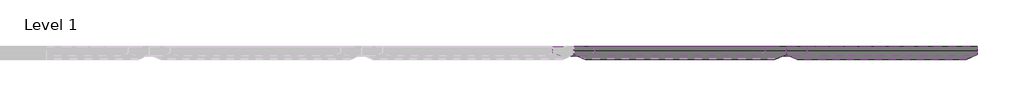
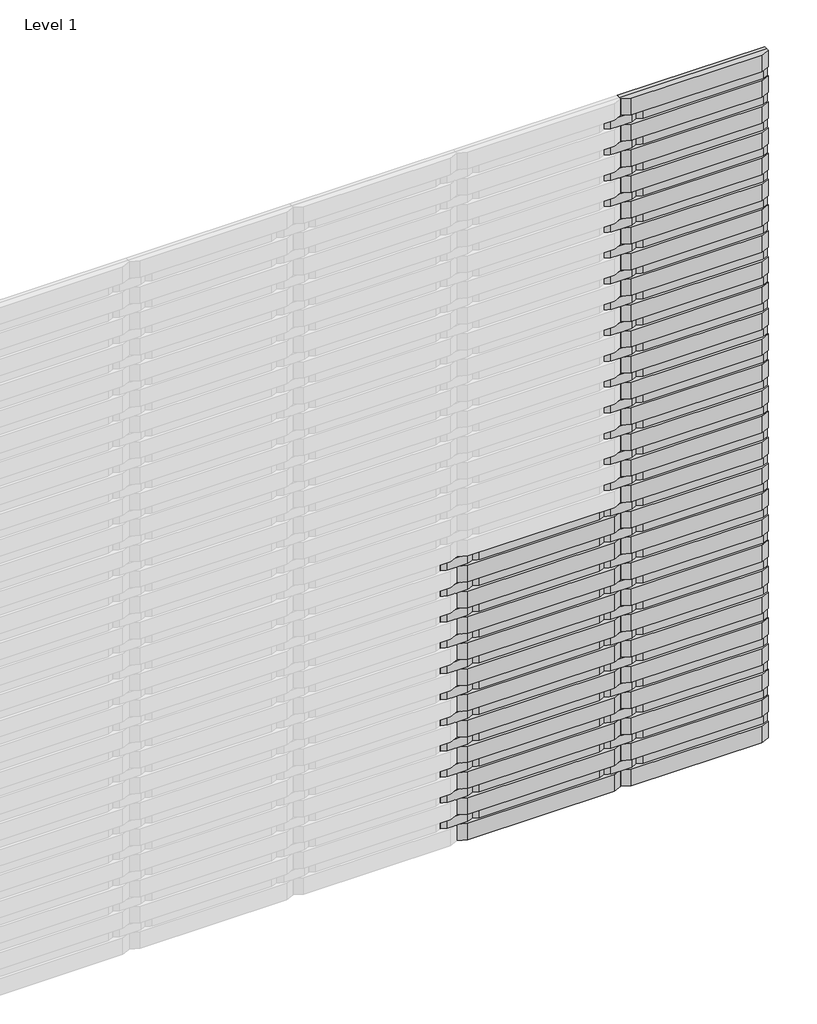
# One storey, part 4 of 4: 112 proxies.
"""IFC4 building model written with IfcOpenShell, lengths in millimetres."""

from ifc_helpers import new_model, si_unit, origin, place, context, project, spatial, transform, mapped, element, save
from components import specialty_equipment_40f1bc00, specialty_equipment_c238b70d, specialty_equipment_b25e9ab8, specialty_equipment_e09701c8

model = new_model("IFC4")

# Units and contexts
model_context = context("Model", 3, world=origin())
ifc_project = project(units=[si_unit("LENGTHUNIT", "METRE", prefix="MILLI")], contexts=[model_context])

# Site, building, storey
site = spatial("IfcSite", under=ifc_project)
building = spatial("IfcBuilding", under=site)
storey = spatial("IfcBuildingStorey", under=building, Name="Level 1", Elevation=0.0)

# Proxies
placement = place(None, origin())
specialty_equipment_shape = specialty_equipment_40f1bc00(model_context)
element("IfcBuildingElementProxy", 1, Name="Spinneybeck_ARO Plank 8 : A - 2’-9” x 3 1/2” x 1 1/4”", ObjectType="Spinneybeck_ARO Plank 8 : A - 2’-9” x 3 1/2” x 1 1/4”", at=placement, inside=storey, context=model_context, shape_type="MappedRepresentation", body=[
    mapped(specialty_equipment_shape, transform((3652.779612, 2593.3070483, 1520.35), x_axis=(1.0, 0.0, 0.0), y_axis=(0.0, 0.0, 1.0), z_axis=(0.0, -1.0, 0.0))),
])
element("IfcBuildingElementProxy", 2, Name="Spinneybeck_ARO Plank 8 : A - 2’-9” x 3 1/2” x 1 1/4”", ObjectType="Spinneybeck_ARO Plank 8 : A - 2’-9” x 3 1/2” x 1 1/4”", at=placement, inside=storey, context=model_context, shape_type="MappedRepresentation", body=[
    mapped(specialty_equipment_shape, transform((3652.779612, 2593.3070483, 1380.65), x_axis=(1.0, 0.0, 0.0), y_axis=(0.0, 0.0, 1.0), z_axis=(0.0, -1.0, 0.0))),
])
element("IfcBuildingElementProxy", 3, Name="Spinneybeck_ARO Plank 8 : A - 2’-9” x 3 1/2” x 1 1/4”", ObjectType="Spinneybeck_ARO Plank 8 : A - 2’-9” x 3 1/2” x 1 1/4”", at=placement, inside=storey, context=model_context, shape_type="MappedRepresentation", body=[
    mapped(specialty_equipment_shape, transform((3652.779612, 2593.3070483, 1240.95), x_axis=(1.0, 0.0, 0.0), y_axis=(0.0, 0.0, 1.0), z_axis=(0.0, -1.0, 0.0))),
])
element("IfcBuildingElementProxy", 4, Name="Spinneybeck_ARO Plank 8 : A - 2’-9” x 3 1/2” x 1 1/4”", ObjectType="Spinneybeck_ARO Plank 8 : A - 2’-9” x 3 1/2” x 1 1/4”", at=placement, inside=storey, context=model_context, shape_type="MappedRepresentation", body=[
    mapped(specialty_equipment_shape, transform((3652.779612, 2593.3070483, 1101.25), x_axis=(1.0, 0.0, 0.0), y_axis=(0.0, 0.0, 1.0), z_axis=(0.0, -1.0, 0.0))),
])
element("IfcBuildingElementProxy", 5, Name="Spinneybeck_ARO Plank 8 : A - 2’-9” x 3 1/2” x 1 1/4”", ObjectType="Spinneybeck_ARO Plank 8 : A - 2’-9” x 3 1/2” x 1 1/4”", at=placement, inside=storey, context=model_context, shape_type="MappedRepresentation", body=[
    mapped(specialty_equipment_shape, transform((3652.779612, 2593.3070483, 961.55), x_axis=(1.0, 0.0, 0.0), y_axis=(0.0, 0.0, 1.0), z_axis=(0.0, -1.0, 0.0))),
])
element("IfcBuildingElementProxy", 6, Name="Spinneybeck_ARO Plank 8 : A - 2’-9” x 3 1/2” x 1 1/4”", ObjectType="Spinneybeck_ARO Plank 8 : A - 2’-9” x 3 1/2” x 1 1/4”", at=placement, inside=storey, context=model_context, shape_type="MappedRepresentation", body=[
    mapped(specialty_equipment_shape, transform((3652.779612, 2593.3070483, 821.85), x_axis=(1.0, 0.0, 0.0), y_axis=(0.0, 0.0, 1.0), z_axis=(0.0, -1.0, 0.0))),
])
element("IfcBuildingElementProxy", 7, Name="Spinneybeck_ARO Plank 8 : A - 2’-9” x 3 1/2” x 1 1/4”", ObjectType="Spinneybeck_ARO Plank 8 : A - 2’-9” x 3 1/2” x 1 1/4”", at=placement, inside=storey, context=model_context, shape_type="MappedRepresentation", body=[
    mapped(specialty_equipment_shape, transform((3652.779612, 2593.3070483, 682.15), x_axis=(1.0, 0.0, 0.0), y_axis=(0.0, 0.0, 1.0), z_axis=(0.0, -1.0, 0.0))),
])
element("IfcBuildingElementProxy", 8, Name="Spinneybeck_ARO Plank 8 : A - 2’-9” x 3 1/2” x 1 1/4”", ObjectType="Spinneybeck_ARO Plank 8 : A - 2’-9” x 3 1/2” x 1 1/4”", at=placement, inside=storey, context=model_context, shape_type="MappedRepresentation", body=[
    mapped(specialty_equipment_shape, transform((3652.779612, 2593.3070483, 542.45), x_axis=(1.0, 0.0, 0.0), y_axis=(0.0, 0.0, 1.0), z_axis=(0.0, -1.0, 0.0))),
])
element("IfcBuildingElementProxy", 9, Name="Spinneybeck_ARO Plank 8 : A - 2’-9” x 3 1/2” x 1 1/4”", ObjectType="Spinneybeck_ARO Plank 8 : A - 2’-9” x 3 1/2” x 1 1/4”", at=placement, inside=storey, context=model_context, shape_type="MappedRepresentation", body=[
    mapped(specialty_equipment_shape, transform((3652.779612, 2593.3070483, 402.75), x_axis=(1.0, 0.0, 0.0), y_axis=(0.0, 0.0, 1.0), z_axis=(0.0, -1.0, 0.0))),
])
element("IfcBuildingElementProxy", 10, Name="Spinneybeck_ARO Plank 8 : A - 2’-9” x 3 1/2” x 1 1/4”", ObjectType="Spinneybeck_ARO Plank 8 : A - 2’-9” x 3 1/2” x 1 1/4”", at=placement, inside=storey, context=model_context, shape_type="MappedRepresentation", body=[
    mapped(specialty_equipment_shape, transform((3652.779612, 2593.3070483, 263.05), x_axis=(1.0, 0.0, 0.0), y_axis=(0.0, 0.0, 1.0), z_axis=(0.0, -1.0, 0.0))),
])
element("IfcBuildingElementProxy", 11, Name="Spinneybeck_ARO Plank 8 : A - 2’-9” x 3 1/2” x 1 1/4”", ObjectType="Spinneybeck_ARO Plank 8 : A - 2’-9” x 3 1/2” x 1 1/4”", at=placement, inside=storey, context=model_context, shape_type="MappedRepresentation", body=[
    mapped(specialty_equipment_shape, transform((3652.779612, 2593.3070483, 123.35), x_axis=(1.0, 0.0, 0.0), y_axis=(0.0, 0.0, 1.0), z_axis=(0.0, -1.0, 0.0))),
])
specialty_equipment_2_shape = specialty_equipment_c238b70d(model_context)
element("IfcBuildingElementProxy", 12, Name="Spinneybeck_ARO Plank 8 : E - 6 1/2” x 2” x 3/4”", ObjectType="Spinneybeck_ARO Plank 8 : E - 6 1/2” x 2” x 3/4”", at=placement, inside=storey, context=model_context, shape_type="MappedRepresentation", body=[
    mapped(specialty_equipment_2_shape, transform((4071.879612, 2593.3070483, 3685.7), x_axis=(1.0, 0.0, 0.0), y_axis=(0.0, 0.0, 1.0), z_axis=(0.0, -1.0, 0.0))),
])
element("IfcBuildingElementProxy", 13, Name="Spinneybeck_ARO Plank 8 : E - 6 1/2” x 2” x 3/4”", ObjectType="Spinneybeck_ARO Plank 8 : E - 6 1/2” x 2” x 3/4”", at=placement, inside=storey, context=model_context, shape_type="MappedRepresentation", body=[
    mapped(specialty_equipment_2_shape, transform((4071.879612, 2593.3070483, 3546.0), x_axis=(1.0, 0.0, 0.0), y_axis=(0.0, 0.0, 1.0), z_axis=(0.0, -1.0, 0.0))),
])
element("IfcBuildingElementProxy", 14, Name="Spinneybeck_ARO Plank 8 : E - 6 1/2” x 2” x 3/4”", ObjectType="Spinneybeck_ARO Plank 8 : E - 6 1/2” x 2” x 3/4”", at=placement, inside=storey, context=model_context, shape_type="MappedRepresentation", body=[
    mapped(specialty_equipment_2_shape, transform((4071.879612, 2593.3070483, 3406.3), x_axis=(1.0, 0.0, 0.0), y_axis=(0.0, 0.0, 1.0), z_axis=(0.0, -1.0, 0.0))),
])
element("IfcBuildingElementProxy", 15, Name="Spinneybeck_ARO Plank 8 : E - 6 1/2” x 2” x 3/4”", ObjectType="Spinneybeck_ARO Plank 8 : E - 6 1/2” x 2” x 3/4”", at=placement, inside=storey, context=model_context, shape_type="MappedRepresentation", body=[
    mapped(specialty_equipment_2_shape, transform((4071.879612, 2593.3070483, 3266.6), x_axis=(1.0, 0.0, 0.0), y_axis=(0.0, 0.0, 1.0), z_axis=(0.0, -1.0, 0.0))),
])
element("IfcBuildingElementProxy", 16, Name="Spinneybeck_ARO Plank 8 : E - 6 1/2” x 2” x 3/4”", ObjectType="Spinneybeck_ARO Plank 8 : E - 6 1/2” x 2” x 3/4”", at=placement, inside=storey, context=model_context, shape_type="MappedRepresentation", body=[
    mapped(specialty_equipment_2_shape, transform((4071.879612, 2593.3070483, 3126.9), x_axis=(1.0, 0.0, 0.0), y_axis=(0.0, 0.0, 1.0), z_axis=(0.0, -1.0, 0.0))),
])
element("IfcBuildingElementProxy", 17, Name="Spinneybeck_ARO Plank 8 : E - 6 1/2” x 2” x 3/4”", ObjectType="Spinneybeck_ARO Plank 8 : E - 6 1/2” x 2” x 3/4”", at=placement, inside=storey, context=model_context, shape_type="MappedRepresentation", body=[
    mapped(specialty_equipment_2_shape, transform((4071.879612, 2593.3070483, 2987.2), x_axis=(1.0, 0.0, 0.0), y_axis=(0.0, 0.0, 1.0), z_axis=(0.0, -1.0, 0.0))),
])
element("IfcBuildingElementProxy", 18, Name="Spinneybeck_ARO Plank 8 : E - 6 1/2” x 2” x 3/4”", ObjectType="Spinneybeck_ARO Plank 8 : E - 6 1/2” x 2” x 3/4”", at=placement, inside=storey, context=model_context, shape_type="MappedRepresentation", body=[
    mapped(specialty_equipment_2_shape, transform((4071.879612, 2593.3070483, 2847.5), x_axis=(1.0, 0.0, 0.0), y_axis=(0.0, 0.0, 1.0), z_axis=(0.0, -1.0, 0.0))),
])
element("IfcBuildingElementProxy", 19, Name="Spinneybeck_ARO Plank 8 : E - 6 1/2” x 2” x 3/4”", ObjectType="Spinneybeck_ARO Plank 8 : E - 6 1/2” x 2” x 3/4”", at=placement, inside=storey, context=model_context, shape_type="MappedRepresentation", body=[
    mapped(specialty_equipment_2_shape, transform((4071.879612, 2593.3070483, 2707.8), x_axis=(1.0, 0.0, 0.0), y_axis=(0.0, 0.0, 1.0), z_axis=(0.0, -1.0, 0.0))),
])
element("IfcBuildingElementProxy", 20, Name="Spinneybeck_ARO Plank 8 : E - 6 1/2” x 2” x 3/4”", ObjectType="Spinneybeck_ARO Plank 8 : E - 6 1/2” x 2” x 3/4”", at=placement, inside=storey, context=model_context, shape_type="MappedRepresentation", body=[
    mapped(specialty_equipment_2_shape, transform((4071.879612, 2593.3070483, 2568.1), x_axis=(1.0, 0.0, 0.0), y_axis=(0.0, 0.0, 1.0), z_axis=(0.0, -1.0, 0.0))),
])
element("IfcBuildingElementProxy", 21, Name="Spinneybeck_ARO Plank 8 : E - 6 1/2” x 2” x 3/4”", ObjectType="Spinneybeck_ARO Plank 8 : E - 6 1/2” x 2” x 3/4”", at=placement, inside=storey, context=model_context, shape_type="MappedRepresentation", body=[
    mapped(specialty_equipment_2_shape, transform((4071.879612, 2593.3070483, 2428.4), x_axis=(1.0, 0.0, 0.0), y_axis=(0.0, 0.0, 1.0), z_axis=(0.0, -1.0, 0.0))),
])
element("IfcBuildingElementProxy", 22, Name="Spinneybeck_ARO Plank 8 : E - 6 1/2” x 2” x 3/4”", ObjectType="Spinneybeck_ARO Plank 8 : E - 6 1/2” x 2” x 3/4”", at=placement, inside=storey, context=model_context, shape_type="MappedRepresentation", body=[
    mapped(specialty_equipment_2_shape, transform((4071.879612, 2593.3070483, 2288.7), x_axis=(1.0, 0.0, 0.0), y_axis=(0.0, 0.0, 1.0), z_axis=(0.0, -1.0, 0.0))),
])
element("IfcBuildingElementProxy", 23, Name="Spinneybeck_ARO Plank 8 : E - 6 1/2” x 2” x 3/4”", ObjectType="Spinneybeck_ARO Plank 8 : E - 6 1/2” x 2” x 3/4”", at=placement, inside=storey, context=model_context, shape_type="MappedRepresentation", body=[
    mapped(specialty_equipment_2_shape, transform((4071.879612, 2593.3070483, 2149.0), x_axis=(1.0, 0.0, 0.0), y_axis=(0.0, 0.0, 1.0), z_axis=(0.0, -1.0, 0.0))),
])
element("IfcBuildingElementProxy", 24, Name="Spinneybeck_ARO Plank 8 : E - 6 1/2” x 2” x 3/4”", ObjectType="Spinneybeck_ARO Plank 8 : E - 6 1/2” x 2” x 3/4”", at=placement, inside=storey, context=model_context, shape_type="MappedRepresentation", body=[
    mapped(specialty_equipment_2_shape, transform((4071.879612, 2593.3070483, 2009.3), x_axis=(1.0, 0.0, 0.0), y_axis=(0.0, 0.0, 1.0), z_axis=(0.0, -1.0, 0.0))),
])
element("IfcBuildingElementProxy", 25, Name="Spinneybeck_ARO Plank 8 : E - 6 1/2” x 2” x 3/4”", ObjectType="Spinneybeck_ARO Plank 8 : E - 6 1/2” x 2” x 3/4”", at=placement, inside=storey, context=model_context, shape_type="MappedRepresentation", body=[
    mapped(specialty_equipment_2_shape, transform((4071.879612, 2593.3070483, 1869.6), x_axis=(1.0, 0.0, 0.0), y_axis=(0.0, 0.0, 1.0), z_axis=(0.0, -1.0, 0.0))),
])
element("IfcBuildingElementProxy", 26, Name="Spinneybeck_ARO Plank 8 : E - 6 1/2” x 2” x 3/4”", ObjectType="Spinneybeck_ARO Plank 8 : E - 6 1/2” x 2” x 3/4”", at=placement, inside=storey, context=model_context, shape_type="MappedRepresentation", body=[
    mapped(specialty_equipment_2_shape, transform((4071.879612, 2593.3070483, 1729.9), x_axis=(1.0, 0.0, 0.0), y_axis=(0.0, 0.0, 1.0), z_axis=(0.0, -1.0, 0.0))),
])
element("IfcBuildingElementProxy", 27, Name="Spinneybeck_ARO Plank 8 : E - 6 1/2” x 2” x 3/4”", ObjectType="Spinneybeck_ARO Plank 8 : E - 6 1/2” x 2” x 3/4”", at=placement, inside=storey, context=model_context, shape_type="MappedRepresentation", body=[
    mapped(specialty_equipment_2_shape, transform((3233.679612, 2593.3070483, 1590.2), x_axis=(1.0, 0.0, 0.0), y_axis=(0.0, 0.0, 1.0), z_axis=(0.0, -1.0, 0.0))),
])
element("IfcBuildingElementProxy", 28, Name="Spinneybeck_ARO Plank 8 : E - 6 1/2” x 2” x 3/4”", ObjectType="Spinneybeck_ARO Plank 8 : E - 6 1/2” x 2” x 3/4”", at=placement, inside=storey, context=model_context, shape_type="MappedRepresentation", body=[
    mapped(specialty_equipment_2_shape, transform((4071.879612, 2593.3070483, 1590.2), x_axis=(1.0, 0.0, 0.0), y_axis=(0.0, 0.0, 1.0), z_axis=(0.0, -1.0, 0.0))),
])
element("IfcBuildingElementProxy", 29, Name="Spinneybeck_ARO Plank 8 : E - 6 1/2” x 2” x 3/4”", ObjectType="Spinneybeck_ARO Plank 8 : E - 6 1/2” x 2” x 3/4”", at=placement, inside=storey, context=model_context, shape_type="MappedRepresentation", body=[
    mapped(specialty_equipment_2_shape, transform((3233.679612, 2593.3070483, 1450.5), x_axis=(1.0, 0.0, 0.0), y_axis=(0.0, 0.0, 1.0), z_axis=(0.0, -1.0, 0.0))),
])
element("IfcBuildingElementProxy", 30, Name="Spinneybeck_ARO Plank 8 : E - 6 1/2” x 2” x 3/4”", ObjectType="Spinneybeck_ARO Plank 8 : E - 6 1/2” x 2” x 3/4”", at=placement, inside=storey, context=model_context, shape_type="MappedRepresentation", body=[
    mapped(specialty_equipment_2_shape, transform((4071.879612, 2593.3070483, 1450.5), x_axis=(1.0, 0.0, 0.0), y_axis=(0.0, 0.0, 1.0), z_axis=(0.0, -1.0, 0.0))),
])
element("IfcBuildingElementProxy", 31, Name="Spinneybeck_ARO Plank 8 : E - 6 1/2” x 2” x 3/4”", ObjectType="Spinneybeck_ARO Plank 8 : E - 6 1/2” x 2” x 3/4”", at=placement, inside=storey, context=model_context, shape_type="MappedRepresentation", body=[
    mapped(specialty_equipment_2_shape, transform((3233.679612, 2593.3070483, 1310.8), x_axis=(1.0, 0.0, 0.0), y_axis=(0.0, 0.0, 1.0), z_axis=(0.0, -1.0, 0.0))),
])
element("IfcBuildingElementProxy", 32, Name="Spinneybeck_ARO Plank 8 : E - 6 1/2” x 2” x 3/4”", ObjectType="Spinneybeck_ARO Plank 8 : E - 6 1/2” x 2” x 3/4”", at=placement, inside=storey, context=model_context, shape_type="MappedRepresentation", body=[
    mapped(specialty_equipment_2_shape, transform((4071.879612, 2593.3070483, 1310.8), x_axis=(1.0, 0.0, 0.0), y_axis=(0.0, 0.0, 1.0), z_axis=(0.0, -1.0, 0.0))),
])
element("IfcBuildingElementProxy", 33, Name="Spinneybeck_ARO Plank 8 : E - 6 1/2” x 2” x 3/4”", ObjectType="Spinneybeck_ARO Plank 8 : E - 6 1/2” x 2” x 3/4”", at=placement, inside=storey, context=model_context, shape_type="MappedRepresentation", body=[
    mapped(specialty_equipment_2_shape, transform((3233.679612, 2593.3070483, 1171.1), x_axis=(1.0, 0.0, 0.0), y_axis=(0.0, 0.0, 1.0), z_axis=(0.0, -1.0, 0.0))),
])
element("IfcBuildingElementProxy", 34, Name="Spinneybeck_ARO Plank 8 : E - 6 1/2” x 2” x 3/4”", ObjectType="Spinneybeck_ARO Plank 8 : E - 6 1/2” x 2” x 3/4”", at=placement, inside=storey, context=model_context, shape_type="MappedRepresentation", body=[
    mapped(specialty_equipment_2_shape, transform((4071.879612, 2593.3070483, 1171.1), x_axis=(1.0, 0.0, 0.0), y_axis=(0.0, 0.0, 1.0), z_axis=(0.0, -1.0, 0.0))),
])
element("IfcBuildingElementProxy", 35, Name="Spinneybeck_ARO Plank 8 : E - 6 1/2” x 2” x 3/4”", ObjectType="Spinneybeck_ARO Plank 8 : E - 6 1/2” x 2” x 3/4”", at=placement, inside=storey, context=model_context, shape_type="MappedRepresentation", body=[
    mapped(specialty_equipment_2_shape, transform((3233.679612, 2593.3070483, 1031.4), x_axis=(1.0, 0.0, 0.0), y_axis=(0.0, 0.0, 1.0), z_axis=(0.0, -1.0, 0.0))),
])
element("IfcBuildingElementProxy", 36, Name="Spinneybeck_ARO Plank 8 : E - 6 1/2” x 2” x 3/4”", ObjectType="Spinneybeck_ARO Plank 8 : E - 6 1/2” x 2” x 3/4”", at=placement, inside=storey, context=model_context, shape_type="MappedRepresentation", body=[
    mapped(specialty_equipment_2_shape, transform((4071.879612, 2593.3070483, 1031.4), x_axis=(1.0, 0.0, 0.0), y_axis=(0.0, 0.0, 1.0), z_axis=(0.0, -1.0, 0.0))),
])
element("IfcBuildingElementProxy", 37, Name="Spinneybeck_ARO Plank 8 : E - 6 1/2” x 2” x 3/4”", ObjectType="Spinneybeck_ARO Plank 8 : E - 6 1/2” x 2” x 3/4”", at=placement, inside=storey, context=model_context, shape_type="MappedRepresentation", body=[
    mapped(specialty_equipment_2_shape, transform((3233.679612, 2593.3070483, 891.7), x_axis=(1.0, 0.0, 0.0), y_axis=(0.0, 0.0, 1.0), z_axis=(0.0, -1.0, 0.0))),
])
element("IfcBuildingElementProxy", 38, Name="Spinneybeck_ARO Plank 8 : E - 6 1/2” x 2” x 3/4”", ObjectType="Spinneybeck_ARO Plank 8 : E - 6 1/2” x 2” x 3/4”", at=placement, inside=storey, context=model_context, shape_type="MappedRepresentation", body=[
    mapped(specialty_equipment_2_shape, transform((4071.879612, 2593.3070483, 891.7), x_axis=(1.0, 0.0, 0.0), y_axis=(0.0, 0.0, 1.0), z_axis=(0.0, -1.0, 0.0))),
])
element("IfcBuildingElementProxy", 39, Name="Spinneybeck_ARO Plank 8 : E - 6 1/2” x 2” x 3/4”", ObjectType="Spinneybeck_ARO Plank 8 : E - 6 1/2” x 2” x 3/4”", at=placement, inside=storey, context=model_context, shape_type="MappedRepresentation", body=[
    mapped(specialty_equipment_2_shape, transform((3233.679612, 2593.3070483, 752.0), x_axis=(1.0, 0.0, 0.0), y_axis=(0.0, 0.0, 1.0), z_axis=(0.0, -1.0, 0.0))),
])
element("IfcBuildingElementProxy", 40, Name="Spinneybeck_ARO Plank 8 : E - 6 1/2” x 2” x 3/4”", ObjectType="Spinneybeck_ARO Plank 8 : E - 6 1/2” x 2” x 3/4”", at=placement, inside=storey, context=model_context, shape_type="MappedRepresentation", body=[
    mapped(specialty_equipment_2_shape, transform((4071.879612, 2593.3070483, 752.0), x_axis=(1.0, 0.0, 0.0), y_axis=(0.0, 0.0, 1.0), z_axis=(0.0, -1.0, 0.0))),
])
element("IfcBuildingElementProxy", 41, Name="Spinneybeck_ARO Plank 8 : E - 6 1/2” x 2” x 3/4”", ObjectType="Spinneybeck_ARO Plank 8 : E - 6 1/2” x 2” x 3/4”", at=placement, inside=storey, context=model_context, shape_type="MappedRepresentation", body=[
    mapped(specialty_equipment_2_shape, transform((3233.679612, 2593.3070483, 612.3), x_axis=(1.0, 0.0, 0.0), y_axis=(0.0, 0.0, 1.0), z_axis=(0.0, -1.0, 0.0))),
])
element("IfcBuildingElementProxy", 42, Name="Spinneybeck_ARO Plank 8 : E - 6 1/2” x 2” x 3/4”", ObjectType="Spinneybeck_ARO Plank 8 : E - 6 1/2” x 2” x 3/4”", at=placement, inside=storey, context=model_context, shape_type="MappedRepresentation", body=[
    mapped(specialty_equipment_2_shape, transform((4071.879612, 2593.3070483, 612.3), x_axis=(1.0, 0.0, 0.0), y_axis=(0.0, 0.0, 1.0), z_axis=(0.0, -1.0, 0.0))),
])
element("IfcBuildingElementProxy", 43, Name="Spinneybeck_ARO Plank 8 : E - 6 1/2” x 2” x 3/4”", ObjectType="Spinneybeck_ARO Plank 8 : E - 6 1/2” x 2” x 3/4”", at=placement, inside=storey, context=model_context, shape_type="MappedRepresentation", body=[
    mapped(specialty_equipment_2_shape, transform((3233.679612, 2593.3070483, 472.6), x_axis=(1.0, 0.0, 0.0), y_axis=(0.0, 0.0, 1.0), z_axis=(0.0, -1.0, 0.0))),
])
element("IfcBuildingElementProxy", 44, Name="Spinneybeck_ARO Plank 8 : E - 6 1/2” x 2” x 3/4”", ObjectType="Spinneybeck_ARO Plank 8 : E - 6 1/2” x 2” x 3/4”", at=placement, inside=storey, context=model_context, shape_type="MappedRepresentation", body=[
    mapped(specialty_equipment_2_shape, transform((4071.879612, 2593.3070483, 472.6), x_axis=(1.0, 0.0, 0.0), y_axis=(0.0, 0.0, 1.0), z_axis=(0.0, -1.0, 0.0))),
])
element("IfcBuildingElementProxy", 45, Name="Spinneybeck_ARO Plank 8 : E - 6 1/2” x 2” x 3/4”", ObjectType="Spinneybeck_ARO Plank 8 : E - 6 1/2” x 2” x 3/4”", at=placement, inside=storey, context=model_context, shape_type="MappedRepresentation", body=[
    mapped(specialty_equipment_2_shape, transform((3233.679612, 2593.3070483, 332.9), x_axis=(1.0, 0.0, 0.0), y_axis=(0.0, 0.0, 1.0), z_axis=(0.0, -1.0, 0.0))),
])
element("IfcBuildingElementProxy", 46, Name="Spinneybeck_ARO Plank 8 : E - 6 1/2” x 2” x 3/4”", ObjectType="Spinneybeck_ARO Plank 8 : E - 6 1/2” x 2” x 3/4”", at=placement, inside=storey, context=model_context, shape_type="MappedRepresentation", body=[
    mapped(specialty_equipment_2_shape, transform((4071.879612, 2593.3070483, 332.9), x_axis=(1.0, 0.0, 0.0), y_axis=(0.0, 0.0, 1.0), z_axis=(0.0, -1.0, 0.0))),
])
element("IfcBuildingElementProxy", 47, Name="Spinneybeck_ARO Plank 8 : E - 6 1/2” x 2” x 3/4”", ObjectType="Spinneybeck_ARO Plank 8 : E - 6 1/2” x 2” x 3/4”", at=placement, inside=storey, context=model_context, shape_type="MappedRepresentation", body=[
    mapped(specialty_equipment_2_shape, transform((3233.679612, 2593.3070483, 193.2), x_axis=(1.0, 0.0, 0.0), y_axis=(0.0, 0.0, 1.0), z_axis=(0.0, -1.0, 0.0))),
])
element("IfcBuildingElementProxy", 48, Name="Spinneybeck_ARO Plank 8 : E - 6 1/2” x 2” x 3/4”", ObjectType="Spinneybeck_ARO Plank 8 : E - 6 1/2” x 2” x 3/4”", at=placement, inside=storey, context=model_context, shape_type="MappedRepresentation", body=[
    mapped(specialty_equipment_2_shape, transform((4071.879612, 2593.3070483, 193.2), x_axis=(1.0, 0.0, 0.0), y_axis=(0.0, 0.0, 1.0), z_axis=(0.0, -1.0, 0.0))),
])
specialty_equipment_3_shape = specialty_equipment_b25e9ab8(model_context)
element("IfcBuildingElementProxy", 49, Name="Spinneybeck_ARO Plank 8 : A - 2’-9” x 3 1/2” x 1 1/4”", ObjectType="Spinneybeck_ARO Plank 8 : A - 2’-9” x 3 1/2” x 1 1/4”", at=placement, inside=storey, context=model_context, shape_type="MappedRepresentation", body=[
    mapped(specialty_equipment_3_shape, transform((4449.704612, 2593.3070483, 3755.55), x_axis=(1.0, 0.0, 0.0), y_axis=(0.0, 0.0, 1.0), z_axis=(0.0, -1.0, 0.0))),
])
element("IfcBuildingElementProxy", 50, Name="Spinneybeck_ARO Plank 8 : A - 2’-9” x 3 1/2” x 1 1/4”", ObjectType="Spinneybeck_ARO Plank 8 : A - 2’-9” x 3 1/2” x 1 1/4”", at=placement, inside=storey, context=model_context, shape_type="MappedRepresentation", body=[
    mapped(specialty_equipment_3_shape, transform((4449.704612, 2593.3070483, 3615.85), x_axis=(1.0, 0.0, 0.0), y_axis=(0.0, 0.0, 1.0), z_axis=(0.0, -1.0, 0.0))),
])
element("IfcBuildingElementProxy", 51, Name="Spinneybeck_ARO Plank 8 : A - 2’-9” x 3 1/2” x 1 1/4”", ObjectType="Spinneybeck_ARO Plank 8 : A - 2’-9” x 3 1/2” x 1 1/4”", at=placement, inside=storey, context=model_context, shape_type="MappedRepresentation", body=[
    mapped(specialty_equipment_3_shape, transform((4449.704612, 2593.3070483, 3476.15), x_axis=(1.0, 0.0, 0.0), y_axis=(0.0, 0.0, 1.0), z_axis=(0.0, -1.0, 0.0))),
])
element("IfcBuildingElementProxy", 52, Name="Spinneybeck_ARO Plank 8 : A - 2’-9” x 3 1/2” x 1 1/4”", ObjectType="Spinneybeck_ARO Plank 8 : A - 2’-9” x 3 1/2” x 1 1/4”", at=placement, inside=storey, context=model_context, shape_type="MappedRepresentation", body=[
    mapped(specialty_equipment_3_shape, transform((4449.704612, 2593.3070483, 3336.45), x_axis=(1.0, 0.0, 0.0), y_axis=(0.0, 0.0, 1.0), z_axis=(0.0, -1.0, 0.0))),
])
element("IfcBuildingElementProxy", 53, Name="Spinneybeck_ARO Plank 8 : A - 2’-9” x 3 1/2” x 1 1/4”", ObjectType="Spinneybeck_ARO Plank 8 : A - 2’-9” x 3 1/2” x 1 1/4”", at=placement, inside=storey, context=model_context, shape_type="MappedRepresentation", body=[
    mapped(specialty_equipment_3_shape, transform((4449.704612, 2593.3070483, 3196.75), x_axis=(1.0, 0.0, 0.0), y_axis=(0.0, 0.0, 1.0), z_axis=(0.0, -1.0, 0.0))),
])
element("IfcBuildingElementProxy", 54, Name="Spinneybeck_ARO Plank 8 : A - 2’-9” x 3 1/2” x 1 1/4”", ObjectType="Spinneybeck_ARO Plank 8 : A - 2’-9” x 3 1/2” x 1 1/4”", at=placement, inside=storey, context=model_context, shape_type="MappedRepresentation", body=[
    mapped(specialty_equipment_3_shape, transform((4449.704612, 2593.3070483, 3057.05), x_axis=(1.0, 0.0, 0.0), y_axis=(0.0, 0.0, 1.0), z_axis=(0.0, -1.0, 0.0))),
])
element("IfcBuildingElementProxy", 55, Name="Spinneybeck_ARO Plank 8 : A - 2’-9” x 3 1/2” x 1 1/4”", ObjectType="Spinneybeck_ARO Plank 8 : A - 2’-9” x 3 1/2” x 1 1/4”", at=placement, inside=storey, context=model_context, shape_type="MappedRepresentation", body=[
    mapped(specialty_equipment_3_shape, transform((4449.704612, 2593.3070483, 2917.35), x_axis=(1.0, 0.0, 0.0), y_axis=(0.0, 0.0, 1.0), z_axis=(0.0, -1.0, 0.0))),
])
element("IfcBuildingElementProxy", 56, Name="Spinneybeck_ARO Plank 8 : A - 2’-9” x 3 1/2” x 1 1/4”", ObjectType="Spinneybeck_ARO Plank 8 : A - 2’-9” x 3 1/2” x 1 1/4”", at=placement, inside=storey, context=model_context, shape_type="MappedRepresentation", body=[
    mapped(specialty_equipment_3_shape, transform((4449.704612, 2593.3070483, 2777.65), x_axis=(1.0, 0.0, 0.0), y_axis=(0.0, 0.0, 1.0), z_axis=(0.0, -1.0, 0.0))),
])
element("IfcBuildingElementProxy", 57, Name="Spinneybeck_ARO Plank 8 : A - 2’-9” x 3 1/2” x 1 1/4”", ObjectType="Spinneybeck_ARO Plank 8 : A - 2’-9” x 3 1/2” x 1 1/4”", at=placement, inside=storey, context=model_context, shape_type="MappedRepresentation", body=[
    mapped(specialty_equipment_3_shape, transform((4449.704612, 2593.3070483, 2637.95), x_axis=(1.0, 0.0, 0.0), y_axis=(0.0, 0.0, 1.0), z_axis=(0.0, -1.0, 0.0))),
])
element("IfcBuildingElementProxy", 58, Name="Spinneybeck_ARO Plank 8 : A - 2’-9” x 3 1/2” x 1 1/4”", ObjectType="Spinneybeck_ARO Plank 8 : A - 2’-9” x 3 1/2” x 1 1/4”", at=placement, inside=storey, context=model_context, shape_type="MappedRepresentation", body=[
    mapped(specialty_equipment_3_shape, transform((4449.704612, 2593.3070483, 2498.25), x_axis=(1.0, 0.0, 0.0), y_axis=(0.0, 0.0, 1.0), z_axis=(0.0, -1.0, 0.0))),
])
element("IfcBuildingElementProxy", 59, Name="Spinneybeck_ARO Plank 8 : A - 2’-9” x 3 1/2” x 1 1/4”", ObjectType="Spinneybeck_ARO Plank 8 : A - 2’-9” x 3 1/2” x 1 1/4”", at=placement, inside=storey, context=model_context, shape_type="MappedRepresentation", body=[
    mapped(specialty_equipment_3_shape, transform((4449.704612, 2593.3070483, 2358.55), x_axis=(1.0, 0.0, 0.0), y_axis=(0.0, 0.0, 1.0), z_axis=(0.0, -1.0, 0.0))),
])
element("IfcBuildingElementProxy", 60, Name="Spinneybeck_ARO Plank 8 : A - 2’-9” x 3 1/2” x 1 1/4”", ObjectType="Spinneybeck_ARO Plank 8 : A - 2’-9” x 3 1/2” x 1 1/4”", at=placement, inside=storey, context=model_context, shape_type="MappedRepresentation", body=[
    mapped(specialty_equipment_3_shape, transform((4449.704612, 2593.3070483, 2218.85), x_axis=(1.0, 0.0, 0.0), y_axis=(0.0, 0.0, 1.0), z_axis=(0.0, -1.0, 0.0))),
])
element("IfcBuildingElementProxy", 61, Name="Spinneybeck_ARO Plank 8 : A - 2’-9” x 3 1/2” x 1 1/4”", ObjectType="Spinneybeck_ARO Plank 8 : A - 2’-9” x 3 1/2” x 1 1/4”", at=placement, inside=storey, context=model_context, shape_type="MappedRepresentation", body=[
    mapped(specialty_equipment_3_shape, transform((4449.704612, 2593.3070483, 2079.15), x_axis=(1.0, 0.0, 0.0), y_axis=(0.0, 0.0, 1.0), z_axis=(0.0, -1.0, 0.0))),
])
element("IfcBuildingElementProxy", 62, Name="Spinneybeck_ARO Plank 8 : A - 2’-9” x 3 1/2” x 1 1/4”", ObjectType="Spinneybeck_ARO Plank 8 : A - 2’-9” x 3 1/2” x 1 1/4”", at=placement, inside=storey, context=model_context, shape_type="MappedRepresentation", body=[
    mapped(specialty_equipment_3_shape, transform((4449.704612, 2593.3070483, 1939.45), x_axis=(1.0, 0.0, 0.0), y_axis=(0.0, 0.0, 1.0), z_axis=(0.0, -1.0, 0.0))),
])
element("IfcBuildingElementProxy", 63, Name="Spinneybeck_ARO Plank 8 : A - 2’-9” x 3 1/2” x 1 1/4”", ObjectType="Spinneybeck_ARO Plank 8 : A - 2’-9” x 3 1/2” x 1 1/4”", at=placement, inside=storey, context=model_context, shape_type="MappedRepresentation", body=[
    mapped(specialty_equipment_3_shape, transform((4449.704612, 2593.3070483, 1799.75), x_axis=(1.0, 0.0, 0.0), y_axis=(0.0, 0.0, 1.0), z_axis=(0.0, -1.0, 0.0))),
])
element("IfcBuildingElementProxy", 64, Name="Spinneybeck_ARO Plank 8 : A - 2’-9” x 3 1/2” x 1 1/4”", ObjectType="Spinneybeck_ARO Plank 8 : A - 2’-9” x 3 1/2” x 1 1/4”", at=placement, inside=storey, context=model_context, shape_type="MappedRepresentation", body=[
    mapped(specialty_equipment_3_shape, transform((4449.704612, 2593.3070483, 1660.05), x_axis=(1.0, 0.0, 0.0), y_axis=(0.0, 0.0, 1.0), z_axis=(0.0, -1.0, 0.0))),
])
element("IfcBuildingElementProxy", 65, Name="Spinneybeck_ARO Plank 8 : A - 2’-9” x 3 1/2” x 1 1/4”", ObjectType="Spinneybeck_ARO Plank 8 : A - 2’-9” x 3 1/2” x 1 1/4”", at=placement, inside=storey, context=model_context, shape_type="MappedRepresentation", body=[
    mapped(specialty_equipment_3_shape, transform((4449.704612, 2593.3070483, 1520.35), x_axis=(1.0, 0.0, 0.0), y_axis=(0.0, 0.0, 1.0), z_axis=(0.0, -1.0, 0.0))),
])
element("IfcBuildingElementProxy", 66, Name="Spinneybeck_ARO Plank 8 : A - 2’-9” x 3 1/2” x 1 1/4”", ObjectType="Spinneybeck_ARO Plank 8 : A - 2’-9” x 3 1/2” x 1 1/4”", at=placement, inside=storey, context=model_context, shape_type="MappedRepresentation", body=[
    mapped(specialty_equipment_3_shape, transform((4449.704612, 2593.3070483, 1380.65), x_axis=(1.0, 0.0, 0.0), y_axis=(0.0, 0.0, 1.0), z_axis=(0.0, -1.0, 0.0))),
])
element("IfcBuildingElementProxy", 67, Name="Spinneybeck_ARO Plank 8 : A - 2’-9” x 3 1/2” x 1 1/4”", ObjectType="Spinneybeck_ARO Plank 8 : A - 2’-9” x 3 1/2” x 1 1/4”", at=placement, inside=storey, context=model_context, shape_type="MappedRepresentation", body=[
    mapped(specialty_equipment_3_shape, transform((4449.704612, 2593.3070483, 1240.95), x_axis=(1.0, 0.0, 0.0), y_axis=(0.0, 0.0, 1.0), z_axis=(0.0, -1.0, 0.0))),
])
element("IfcBuildingElementProxy", 68, Name="Spinneybeck_ARO Plank 8 : A - 2’-9” x 3 1/2” x 1 1/4”", ObjectType="Spinneybeck_ARO Plank 8 : A - 2’-9” x 3 1/2” x 1 1/4”", at=placement, inside=storey, context=model_context, shape_type="MappedRepresentation", body=[
    mapped(specialty_equipment_3_shape, transform((4449.704612, 2593.3070483, 1101.25), x_axis=(1.0, 0.0, 0.0), y_axis=(0.0, 0.0, 1.0), z_axis=(0.0, -1.0, 0.0))),
])
element("IfcBuildingElementProxy", 69, Name="Spinneybeck_ARO Plank 8 : A - 2’-9” x 3 1/2” x 1 1/4”", ObjectType="Spinneybeck_ARO Plank 8 : A - 2’-9” x 3 1/2” x 1 1/4”", at=placement, inside=storey, context=model_context, shape_type="MappedRepresentation", body=[
    mapped(specialty_equipment_3_shape, transform((4449.704612, 2593.3070483, 961.55), x_axis=(1.0, 0.0, 0.0), y_axis=(0.0, 0.0, 1.0), z_axis=(0.0, -1.0, 0.0))),
])
element("IfcBuildingElementProxy", 70, Name="Spinneybeck_ARO Plank 8 : A - 2’-9” x 3 1/2” x 1 1/4”", ObjectType="Spinneybeck_ARO Plank 8 : A - 2’-9” x 3 1/2” x 1 1/4”", at=placement, inside=storey, context=model_context, shape_type="MappedRepresentation", body=[
    mapped(specialty_equipment_3_shape, transform((4449.704612, 2593.3070483, 821.85), x_axis=(1.0, 0.0, 0.0), y_axis=(0.0, 0.0, 1.0), z_axis=(0.0, -1.0, 0.0))),
])
element("IfcBuildingElementProxy", 71, Name="Spinneybeck_ARO Plank 8 : A - 2’-9” x 3 1/2” x 1 1/4”", ObjectType="Spinneybeck_ARO Plank 8 : A - 2’-9” x 3 1/2” x 1 1/4”", at=placement, inside=storey, context=model_context, shape_type="MappedRepresentation", body=[
    mapped(specialty_equipment_3_shape, transform((4449.704612, 2593.3070483, 682.15), x_axis=(1.0, 0.0, 0.0), y_axis=(0.0, 0.0, 1.0), z_axis=(0.0, -1.0, 0.0))),
])
element("IfcBuildingElementProxy", 72, Name="Spinneybeck_ARO Plank 8 : A - 2’-9” x 3 1/2” x 1 1/4”", ObjectType="Spinneybeck_ARO Plank 8 : A - 2’-9” x 3 1/2” x 1 1/4”", at=placement, inside=storey, context=model_context, shape_type="MappedRepresentation", body=[
    mapped(specialty_equipment_3_shape, transform((4449.704612, 2593.3070483, 542.45), x_axis=(1.0, 0.0, 0.0), y_axis=(0.0, 0.0, 1.0), z_axis=(0.0, -1.0, 0.0))),
])
element("IfcBuildingElementProxy", 73, Name="Spinneybeck_ARO Plank 8 : A - 2’-9” x 3 1/2” x 1 1/4”", ObjectType="Spinneybeck_ARO Plank 8 : A - 2’-9” x 3 1/2” x 1 1/4”", at=placement, inside=storey, context=model_context, shape_type="MappedRepresentation", body=[
    mapped(specialty_equipment_3_shape, transform((4449.704612, 2593.3070483, 402.75), x_axis=(1.0, 0.0, 0.0), y_axis=(0.0, 0.0, 1.0), z_axis=(0.0, -1.0, 0.0))),
])
element("IfcBuildingElementProxy", 74, Name="Spinneybeck_ARO Plank 8 : A - 2’-9” x 3 1/2” x 1 1/4”", ObjectType="Spinneybeck_ARO Plank 8 : A - 2’-9” x 3 1/2” x 1 1/4”", at=placement, inside=storey, context=model_context, shape_type="MappedRepresentation", body=[
    mapped(specialty_equipment_3_shape, transform((4449.704612, 2593.3070483, 263.05), x_axis=(1.0, 0.0, 0.0), y_axis=(0.0, 0.0, 1.0), z_axis=(0.0, -1.0, 0.0))),
])
element("IfcBuildingElementProxy", 75, Name="Spinneybeck_ARO Plank 8 : A - 2’-9” x 3 1/2” x 1 1/4”", ObjectType="Spinneybeck_ARO Plank 8 : A - 2’-9” x 3 1/2” x 1 1/4”", at=placement, inside=storey, context=model_context, shape_type="MappedRepresentation", body=[
    mapped(specialty_equipment_3_shape, transform((4449.704612, 2593.3070483, 123.35), x_axis=(1.0, 0.0, 0.0), y_axis=(0.0, 0.0, 1.0), z_axis=(0.0, -1.0, 0.0))),
])
specialty_equipment_4_shape = specialty_equipment_e09701c8(model_context)
element("IfcBuildingElementProxy", 76, Name="Spinneybeck_ARO Plank 8 : D - 2’-2 1/2” x 2” x 3/4”", ObjectType="Spinneybeck_ARO Plank 8 : D - 2’-2 1/2” x 2” x 3/4”", at=placement, inside=storey, context=model_context, shape_type="MappedRepresentation", body=[
    mapped(specialty_equipment_4_shape, transform((4490.929612, 2593.3070483, 3685.7), x_axis=(-1.0, 0.0, 0.0), y_axis=(0.0, 0.0, -1.0), z_axis=(0.0, -1.0, 0.0))),
])
element("IfcBuildingElementProxy", 77, Name="Spinneybeck_ARO Plank 8 : D - 2’-2 1/2” x 2” x 3/4”", ObjectType="Spinneybeck_ARO Plank 8 : D - 2’-2 1/2” x 2” x 3/4”", at=placement, inside=storey, context=model_context, shape_type="MappedRepresentation", body=[
    mapped(specialty_equipment_4_shape, transform((4490.929612, 2593.3070483, 3546.0), x_axis=(-1.0, 0.0, 0.0), y_axis=(0.0, 0.0, -1.0), z_axis=(0.0, -1.0, 0.0))),
])
element("IfcBuildingElementProxy", 78, Name="Spinneybeck_ARO Plank 8 : D - 2’-2 1/2” x 2” x 3/4”", ObjectType="Spinneybeck_ARO Plank 8 : D - 2’-2 1/2” x 2” x 3/4”", at=placement, inside=storey, context=model_context, shape_type="MappedRepresentation", body=[
    mapped(specialty_equipment_4_shape, transform((4490.929612, 2593.3070483, 3406.3), x_axis=(-1.0, 0.0, 0.0), y_axis=(0.0, 0.0, -1.0), z_axis=(0.0, -1.0, 0.0))),
])
element("IfcBuildingElementProxy", 79, Name="Spinneybeck_ARO Plank 8 : D - 2’-2 1/2” x 2” x 3/4”", ObjectType="Spinneybeck_ARO Plank 8 : D - 2’-2 1/2” x 2” x 3/4”", at=placement, inside=storey, context=model_context, shape_type="MappedRepresentation", body=[
    mapped(specialty_equipment_4_shape, transform((4490.929612, 2593.3070483, 3266.6), x_axis=(-1.0, 0.0, 0.0), y_axis=(0.0, 0.0, -1.0), z_axis=(0.0, -1.0, 0.0))),
])
element("IfcBuildingElementProxy", 80, Name="Spinneybeck_ARO Plank 8 : D - 2’-2 1/2” x 2” x 3/4”", ObjectType="Spinneybeck_ARO Plank 8 : D - 2’-2 1/2” x 2” x 3/4”", at=placement, inside=storey, context=model_context, shape_type="MappedRepresentation", body=[
    mapped(specialty_equipment_4_shape, transform((4490.929612, 2593.3070483, 3126.9), x_axis=(-1.0, 0.0, 0.0), y_axis=(0.0, 0.0, -1.0), z_axis=(0.0, -1.0, 0.0))),
])
element("IfcBuildingElementProxy", 81, Name="Spinneybeck_ARO Plank 8 : D - 2’-2 1/2” x 2” x 3/4”", ObjectType="Spinneybeck_ARO Plank 8 : D - 2’-2 1/2” x 2” x 3/4”", at=placement, inside=storey, context=model_context, shape_type="MappedRepresentation", body=[
    mapped(specialty_equipment_4_shape, transform((4490.929612, 2593.3070483, 2987.2), x_axis=(-1.0, 0.0, 0.0), y_axis=(0.0, 0.0, -1.0), z_axis=(0.0, -1.0, 0.0))),
])
element("IfcBuildingElementProxy", 82, Name="Spinneybeck_ARO Plank 8 : D - 2’-2 1/2” x 2” x 3/4”", ObjectType="Spinneybeck_ARO Plank 8 : D - 2’-2 1/2” x 2” x 3/4”", at=placement, inside=storey, context=model_context, shape_type="MappedRepresentation", body=[
    mapped(specialty_equipment_4_shape, transform((4490.929612, 2593.3070483, 2847.5), x_axis=(-1.0, 0.0, 0.0), y_axis=(0.0, 0.0, -1.0), z_axis=(0.0, -1.0, 0.0))),
])
element("IfcBuildingElementProxy", 83, Name="Spinneybeck_ARO Plank 8 : D - 2’-2 1/2” x 2” x 3/4”", ObjectType="Spinneybeck_ARO Plank 8 : D - 2’-2 1/2” x 2” x 3/4”", at=placement, inside=storey, context=model_context, shape_type="MappedRepresentation", body=[
    mapped(specialty_equipment_4_shape, transform((4490.929612, 2593.3070483, 2707.8), x_axis=(-1.0, 0.0, 0.0), y_axis=(0.0, 0.0, -1.0), z_axis=(0.0, -1.0, 0.0))),
])
element("IfcBuildingElementProxy", 84, Name="Spinneybeck_ARO Plank 8 : D - 2’-2 1/2” x 2” x 3/4”", ObjectType="Spinneybeck_ARO Plank 8 : D - 2’-2 1/2” x 2” x 3/4”", at=placement, inside=storey, context=model_context, shape_type="MappedRepresentation", body=[
    mapped(specialty_equipment_4_shape, transform((4490.929612, 2593.3070483, 2568.1), x_axis=(-1.0, 0.0, 0.0), y_axis=(0.0, 0.0, -1.0), z_axis=(0.0, -1.0, 0.0))),
])
element("IfcBuildingElementProxy", 85, Name="Spinneybeck_ARO Plank 8 : D - 2’-2 1/2” x 2” x 3/4”", ObjectType="Spinneybeck_ARO Plank 8 : D - 2’-2 1/2” x 2” x 3/4”", at=placement, inside=storey, context=model_context, shape_type="MappedRepresentation", body=[
    mapped(specialty_equipment_4_shape, transform((4490.929612, 2593.3070483, 2428.4), x_axis=(-1.0, 0.0, 0.0), y_axis=(0.0, 0.0, -1.0), z_axis=(0.0, -1.0, 0.0))),
])
element("IfcBuildingElementProxy", 86, Name="Spinneybeck_ARO Plank 8 : D - 2’-2 1/2” x 2” x 3/4”", ObjectType="Spinneybeck_ARO Plank 8 : D - 2’-2 1/2” x 2” x 3/4”", at=placement, inside=storey, context=model_context, shape_type="MappedRepresentation", body=[
    mapped(specialty_equipment_4_shape, transform((4490.929612, 2593.3070483, 2288.7), x_axis=(-1.0, 0.0, 0.0), y_axis=(0.0, 0.0, -1.0), z_axis=(0.0, -1.0, 0.0))),
])
element("IfcBuildingElementProxy", 87, Name="Spinneybeck_ARO Plank 8 : D - 2’-2 1/2” x 2” x 3/4”", ObjectType="Spinneybeck_ARO Plank 8 : D - 2’-2 1/2” x 2” x 3/4”", at=placement, inside=storey, context=model_context, shape_type="MappedRepresentation", body=[
    mapped(specialty_equipment_4_shape, transform((4490.929612, 2593.3070483, 2149.0), x_axis=(-1.0, 0.0, 0.0), y_axis=(0.0, 0.0, -1.0), z_axis=(0.0, -1.0, 0.0))),
])
element("IfcBuildingElementProxy", 88, Name="Spinneybeck_ARO Plank 8 : D - 2’-2 1/2” x 2” x 3/4”", ObjectType="Spinneybeck_ARO Plank 8 : D - 2’-2 1/2” x 2” x 3/4”", at=placement, inside=storey, context=model_context, shape_type="MappedRepresentation", body=[
    mapped(specialty_equipment_4_shape, transform((4490.929612, 2593.3070483, 2009.3), x_axis=(-1.0, 0.0, 0.0), y_axis=(0.0, 0.0, -1.0), z_axis=(0.0, -1.0, 0.0))),
])
element("IfcBuildingElementProxy", 89, Name="Spinneybeck_ARO Plank 8 : D - 2’-2 1/2” x 2” x 3/4”", ObjectType="Spinneybeck_ARO Plank 8 : D - 2’-2 1/2” x 2” x 3/4”", at=placement, inside=storey, context=model_context, shape_type="MappedRepresentation", body=[
    mapped(specialty_equipment_4_shape, transform((4490.929612, 2593.3070483, 1869.6), x_axis=(-1.0, 0.0, 0.0), y_axis=(0.0, 0.0, -1.0), z_axis=(0.0, -1.0, 0.0))),
])
element("IfcBuildingElementProxy", 90, Name="Spinneybeck_ARO Plank 8 : D - 2’-2 1/2” x 2” x 3/4”", ObjectType="Spinneybeck_ARO Plank 8 : D - 2’-2 1/2” x 2” x 3/4”", at=placement, inside=storey, context=model_context, shape_type="MappedRepresentation", body=[
    mapped(specialty_equipment_4_shape, transform((4490.929612, 2593.3070483, 1729.9), x_axis=(-1.0, 0.0, 0.0), y_axis=(0.0, 0.0, -1.0), z_axis=(0.0, -1.0, 0.0))),
])
element("IfcBuildingElementProxy", 91, Name="Spinneybeck_ARO Plank 8 : D - 2’-2 1/2” x 2” x 3/4”", ObjectType="Spinneybeck_ARO Plank 8 : D - 2’-2 1/2” x 2” x 3/4”", at=placement, inside=storey, context=model_context, shape_type="MappedRepresentation", body=[
    mapped(specialty_equipment_4_shape, transform((3652.729612, 2593.3070483, 1590.2), x_axis=(-1.0, 0.0, 0.0), y_axis=(0.0, 0.0, -1.0), z_axis=(0.0, -1.0, 0.0))),
])
element("IfcBuildingElementProxy", 92, Name="Spinneybeck_ARO Plank 8 : D - 2’-2 1/2” x 2” x 3/4”", ObjectType="Spinneybeck_ARO Plank 8 : D - 2’-2 1/2” x 2” x 3/4”", at=placement, inside=storey, context=model_context, shape_type="MappedRepresentation", body=[
    mapped(specialty_equipment_4_shape, transform((4490.929612, 2593.3070483, 1590.2), x_axis=(-1.0, 0.0, 0.0), y_axis=(0.0, 0.0, -1.0), z_axis=(0.0, -1.0, 0.0))),
])
element("IfcBuildingElementProxy", 93, Name="Spinneybeck_ARO Plank 8 : D - 2’-2 1/2” x 2” x 3/4”", ObjectType="Spinneybeck_ARO Plank 8 : D - 2’-2 1/2” x 2” x 3/4”", at=placement, inside=storey, context=model_context, shape_type="MappedRepresentation", body=[
    mapped(specialty_equipment_4_shape, transform((3652.729612, 2593.3070483, 1450.5), x_axis=(-1.0, 0.0, 0.0), y_axis=(0.0, 0.0, -1.0), z_axis=(0.0, -1.0, 0.0))),
])
element("IfcBuildingElementProxy", 94, Name="Spinneybeck_ARO Plank 8 : D - 2’-2 1/2” x 2” x 3/4”", ObjectType="Spinneybeck_ARO Plank 8 : D - 2’-2 1/2” x 2” x 3/4”", at=placement, inside=storey, context=model_context, shape_type="MappedRepresentation", body=[
    mapped(specialty_equipment_4_shape, transform((4490.929612, 2593.3070483, 1450.5), x_axis=(-1.0, 0.0, 0.0), y_axis=(0.0, 0.0, -1.0), z_axis=(0.0, -1.0, 0.0))),
])
element("IfcBuildingElementProxy", 95, Name="Spinneybeck_ARO Plank 8 : D - 2’-2 1/2” x 2” x 3/4”", ObjectType="Spinneybeck_ARO Plank 8 : D - 2’-2 1/2” x 2” x 3/4”", at=placement, inside=storey, context=model_context, shape_type="MappedRepresentation", body=[
    mapped(specialty_equipment_4_shape, transform((3652.729612, 2593.3070483, 1310.8), x_axis=(-1.0, 0.0, 0.0), y_axis=(0.0, 0.0, -1.0), z_axis=(0.0, -1.0, 0.0))),
])
element("IfcBuildingElementProxy", 96, Name="Spinneybeck_ARO Plank 8 : D - 2’-2 1/2” x 2” x 3/4”", ObjectType="Spinneybeck_ARO Plank 8 : D - 2’-2 1/2” x 2” x 3/4”", at=placement, inside=storey, context=model_context, shape_type="MappedRepresentation", body=[
    mapped(specialty_equipment_4_shape, transform((4490.929612, 2593.3070483, 1310.8), x_axis=(-1.0, 0.0, 0.0), y_axis=(0.0, 0.0, -1.0), z_axis=(0.0, -1.0, 0.0))),
])
element("IfcBuildingElementProxy", 97, Name="Spinneybeck_ARO Plank 8 : D - 2’-2 1/2” x 2” x 3/4”", ObjectType="Spinneybeck_ARO Plank 8 : D - 2’-2 1/2” x 2” x 3/4”", at=placement, inside=storey, context=model_context, shape_type="MappedRepresentation", body=[
    mapped(specialty_equipment_4_shape, transform((3652.729612, 2593.3070483, 1171.1), x_axis=(-1.0, 0.0, 0.0), y_axis=(0.0, 0.0, -1.0), z_axis=(0.0, -1.0, 0.0))),
])
element("IfcBuildingElementProxy", 98, Name="Spinneybeck_ARO Plank 8 : D - 2’-2 1/2” x 2” x 3/4”", ObjectType="Spinneybeck_ARO Plank 8 : D - 2’-2 1/2” x 2” x 3/4”", at=placement, inside=storey, context=model_context, shape_type="MappedRepresentation", body=[
    mapped(specialty_equipment_4_shape, transform((4490.929612, 2593.3070483, 1171.1), x_axis=(-1.0, 0.0, 0.0), y_axis=(0.0, 0.0, -1.0), z_axis=(0.0, -1.0, 0.0))),
])
element("IfcBuildingElementProxy", 99, Name="Spinneybeck_ARO Plank 8 : D - 2’-2 1/2” x 2” x 3/4”", ObjectType="Spinneybeck_ARO Plank 8 : D - 2’-2 1/2” x 2” x 3/4”", at=placement, inside=storey, context=model_context, shape_type="MappedRepresentation", body=[
    mapped(specialty_equipment_4_shape, transform((3652.729612, 2593.3070483, 1031.4), x_axis=(-1.0, 0.0, 0.0), y_axis=(0.0, 0.0, -1.0), z_axis=(0.0, -1.0, 0.0))),
])
element("IfcBuildingElementProxy", 100, Name="Spinneybeck_ARO Plank 8 : D - 2’-2 1/2” x 2” x 3/4”", ObjectType="Spinneybeck_ARO Plank 8 : D - 2’-2 1/2” x 2” x 3/4”", at=placement, inside=storey, context=model_context, shape_type="MappedRepresentation", body=[
    mapped(specialty_equipment_4_shape, transform((4490.929612, 2593.3070483, 1031.4), x_axis=(-1.0, 0.0, 0.0), y_axis=(0.0, 0.0, -1.0), z_axis=(0.0, -1.0, 0.0))),
])
element("IfcBuildingElementProxy", 101, Name="Spinneybeck_ARO Plank 8 : D - 2’-2 1/2” x 2” x 3/4”", ObjectType="Spinneybeck_ARO Plank 8 : D - 2’-2 1/2” x 2” x 3/4”", at=placement, inside=storey, context=model_context, shape_type="MappedRepresentation", body=[
    mapped(specialty_equipment_4_shape, transform((3652.729612, 2593.3070483, 891.7), x_axis=(-1.0, 0.0, 0.0), y_axis=(0.0, 0.0, -1.0), z_axis=(0.0, -1.0, 0.0))),
])
element("IfcBuildingElementProxy", 102, Name="Spinneybeck_ARO Plank 8 : D - 2’-2 1/2” x 2” x 3/4”", ObjectType="Spinneybeck_ARO Plank 8 : D - 2’-2 1/2” x 2” x 3/4”", at=placement, inside=storey, context=model_context, shape_type="MappedRepresentation", body=[
    mapped(specialty_equipment_4_shape, transform((4490.929612, 2593.3070483, 891.7), x_axis=(-1.0, 0.0, 0.0), y_axis=(0.0, 0.0, -1.0), z_axis=(0.0, -1.0, 0.0))),
])
element("IfcBuildingElementProxy", 103, Name="Spinneybeck_ARO Plank 8 : D - 2’-2 1/2” x 2” x 3/4”", ObjectType="Spinneybeck_ARO Plank 8 : D - 2’-2 1/2” x 2” x 3/4”", at=placement, inside=storey, context=model_context, shape_type="MappedRepresentation", body=[
    mapped(specialty_equipment_4_shape, transform((3652.729612, 2593.3070483, 752.0), x_axis=(-1.0, 0.0, 0.0), y_axis=(0.0, 0.0, -1.0), z_axis=(0.0, -1.0, 0.0))),
])
element("IfcBuildingElementProxy", 104, Name="Spinneybeck_ARO Plank 8 : D - 2’-2 1/2” x 2” x 3/4”", ObjectType="Spinneybeck_ARO Plank 8 : D - 2’-2 1/2” x 2” x 3/4”", at=placement, inside=storey, context=model_context, shape_type="MappedRepresentation", body=[
    mapped(specialty_equipment_4_shape, transform((4490.929612, 2593.3070483, 752.0), x_axis=(-1.0, 0.0, 0.0), y_axis=(0.0, 0.0, -1.0), z_axis=(0.0, -1.0, 0.0))),
])
element("IfcBuildingElementProxy", 105, Name="Spinneybeck_ARO Plank 8 : D - 2’-2 1/2” x 2” x 3/4”", ObjectType="Spinneybeck_ARO Plank 8 : D - 2’-2 1/2” x 2” x 3/4”", at=placement, inside=storey, context=model_context, shape_type="MappedRepresentation", body=[
    mapped(specialty_equipment_4_shape, transform((3652.729612, 2593.3070483, 612.3), x_axis=(-1.0, 0.0, 0.0), y_axis=(0.0, 0.0, -1.0), z_axis=(0.0, -1.0, 0.0))),
])
element("IfcBuildingElementProxy", 106, Name="Spinneybeck_ARO Plank 8 : D - 2’-2 1/2” x 2” x 3/4”", ObjectType="Spinneybeck_ARO Plank 8 : D - 2’-2 1/2” x 2” x 3/4”", at=placement, inside=storey, context=model_context, shape_type="MappedRepresentation", body=[
    mapped(specialty_equipment_4_shape, transform((4490.929612, 2593.3070483, 612.3), x_axis=(-1.0, 0.0, 0.0), y_axis=(0.0, 0.0, -1.0), z_axis=(0.0, -1.0, 0.0))),
])
element("IfcBuildingElementProxy", 107, Name="Spinneybeck_ARO Plank 8 : D - 2’-2 1/2” x 2” x 3/4”", ObjectType="Spinneybeck_ARO Plank 8 : D - 2’-2 1/2” x 2” x 3/4”", at=placement, inside=storey, context=model_context, shape_type="MappedRepresentation", body=[
    mapped(specialty_equipment_4_shape, transform((3652.729612, 2593.3070483, 472.6), x_axis=(-1.0, 0.0, 0.0), y_axis=(0.0, 0.0, -1.0), z_axis=(0.0, -1.0, 0.0))),
])
element("IfcBuildingElementProxy", 108, Name="Spinneybeck_ARO Plank 8 : D - 2’-2 1/2” x 2” x 3/4”", ObjectType="Spinneybeck_ARO Plank 8 : D - 2’-2 1/2” x 2” x 3/4”", at=placement, inside=storey, context=model_context, shape_type="MappedRepresentation", body=[
    mapped(specialty_equipment_4_shape, transform((4490.929612, 2593.3070483, 472.6), x_axis=(-1.0, 0.0, 0.0), y_axis=(0.0, 0.0, -1.0), z_axis=(0.0, -1.0, 0.0))),
])
element("IfcBuildingElementProxy", 109, Name="Spinneybeck_ARO Plank 8 : D - 2’-2 1/2” x 2” x 3/4”", ObjectType="Spinneybeck_ARO Plank 8 : D - 2’-2 1/2” x 2” x 3/4”", at=placement, inside=storey, context=model_context, shape_type="MappedRepresentation", body=[
    mapped(specialty_equipment_4_shape, transform((3652.729612, 2593.3070483, 332.9), x_axis=(-1.0, 0.0, 0.0), y_axis=(0.0, 0.0, -1.0), z_axis=(0.0, -1.0, 0.0))),
])
element("IfcBuildingElementProxy", 110, Name="Spinneybeck_ARO Plank 8 : D - 2’-2 1/2” x 2” x 3/4”", ObjectType="Spinneybeck_ARO Plank 8 : D - 2’-2 1/2” x 2” x 3/4”", at=placement, inside=storey, context=model_context, shape_type="MappedRepresentation", body=[
    mapped(specialty_equipment_4_shape, transform((4490.929612, 2593.3070483, 332.9), x_axis=(-1.0, 0.0, 0.0), y_axis=(0.0, 0.0, -1.0), z_axis=(0.0, -1.0, 0.0))),
])
element("IfcBuildingElementProxy", 111, Name="Spinneybeck_ARO Plank 8 : D - 2’-2 1/2” x 2” x 3/4”", ObjectType="Spinneybeck_ARO Plank 8 : D - 2’-2 1/2” x 2” x 3/4”", at=placement, inside=storey, context=model_context, shape_type="MappedRepresentation", body=[
    mapped(specialty_equipment_4_shape, transform((3652.729612, 2593.3070483, 193.2), x_axis=(-1.0, 0.0, 0.0), y_axis=(0.0, 0.0, -1.0), z_axis=(0.0, -1.0, 0.0))),
])
element("IfcBuildingElementProxy", 112, Name="Spinneybeck_ARO Plank 8 : D - 2’-2 1/2” x 2” x 3/4”", ObjectType="Spinneybeck_ARO Plank 8 : D - 2’-2 1/2” x 2” x 3/4”", at=placement, inside=storey, context=model_context, shape_type="MappedRepresentation", body=[
    mapped(specialty_equipment_4_shape, transform((4490.929612, 2593.3070483, 193.2), x_axis=(-1.0, 0.0, 0.0), y_axis=(0.0, 0.0, -1.0), z_axis=(0.0, -1.0, 0.0))),
])

save(model, "model.ifc")
